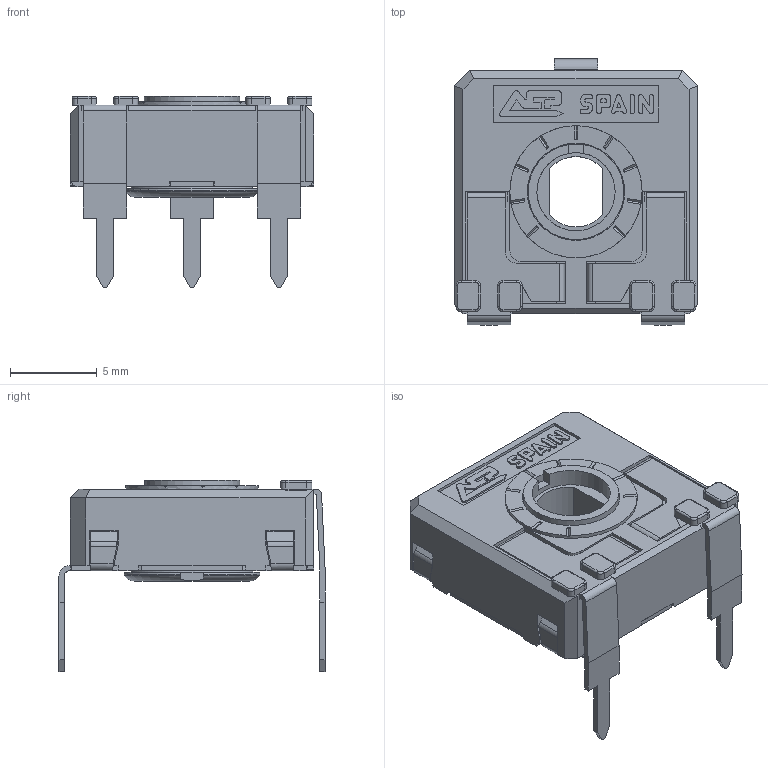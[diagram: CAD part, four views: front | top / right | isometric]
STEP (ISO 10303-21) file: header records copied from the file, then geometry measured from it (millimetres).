
FILE_DESCRIPTION(/* description */ (''),/* implementation_level */ '2;1');
FILE_NAME(/* name */ '\\SERVERACP\intercambio\Ignacio Santa Cecilia\Nueva WEB 2025\CA14 - CE14\CA14ZV15.stp',/* time_stamp */ '2025-07-01T10:36:24+02:00',/* author */ ('CEM'),/* organization */ (''),/* preprocessor_version */ 'ST-DEVELOPER v17',/* originating_system */ 'Autodesk Inventor 2018',/* authorisation */ '');
FILE_SCHEMA (('AUTOMOTIVE_DESIGN { 1 0 10303 214 3 1 1 }'));
Length unit declared in the file: millimetre
Products named in the file (1): CARCASA CA14 PGA
Bounding box: 14 x 15.3 x 11 mm (x, y, z)
Volume: 535.9 mm3; surface area: 1487.5 mm2
Topology: 1 solids, 1 shells, 676 faces, 1912 edges, 1232 vertices
Faces by surface type: plane 500, cylinder 139, torus 23, bspline 8, cone 6
Full cylindrical faces by diameter (mm): 4.5 x1, 5.5 x1, 5.6 x1, 5.752 x1, 6.8 x1, 7.6 x1
Entity records: 22105 total; most frequent: CARTESIAN_POINT 4118, ORIENTED_EDGE 3824, DIRECTION 3569, EDGE_CURVE 1912, LINE 1503, VECTOR 1503, VERTEX_POINT 1232, AXIS2_PLACEMENT_3D 1033
